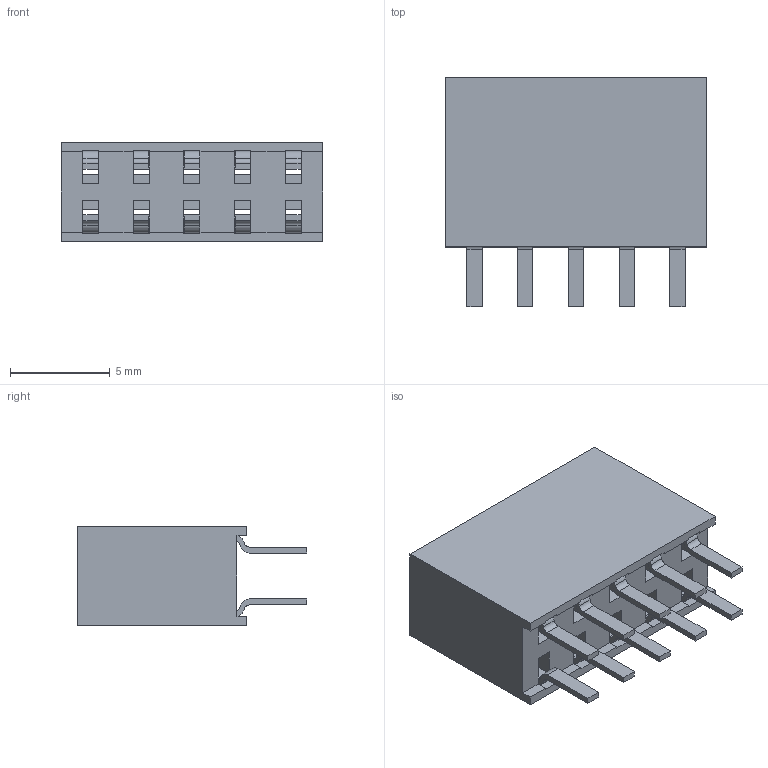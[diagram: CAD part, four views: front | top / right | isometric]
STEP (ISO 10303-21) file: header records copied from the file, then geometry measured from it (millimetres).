
FILE_DESCRIPTION(/* description */ (''),/* implementation_level */ '2;1');
FILE_NAME(/* name */ 'PM254-2-05-Z-8.5-XX-LPT(L11.5) (2.54双排 排母 直针 防漏锡 塑高8.5-HCTL).stp',/* time_stamp */ '2026-10-24T11:13:42+08:00',/* author */ (''),/* organization */ (''),/* preprocessor_version */ 'ST-DEVELOPER v16',/* originating_system */ 'SIEMENS PLM Software NX 10.0',/* authorisation */ '');
FILE_SCHEMA (('AUTOMOTIVE_DESIGN { 1 0 10303 214 3 1 1 1 }'));
Length unit declared in the file: millimetre
Products named in the file (1): PM254-2-N-Z-8.5-XX-LPT(L11.5) (2.54双排 排母 
直针 防漏锡 塑高8.5-HCTL)
Bounding box: 13.1 x 11.5 x 5 mm (x, y, z)
Volume: 442.7 mm3; surface area: 980.6 mm2
Topology: 11 solids, 11 shells, 260 faces, 704 edges, 456 vertices
Faces by surface type: plane 220, cylinder 40
Entity records: 8142 total; most frequent: CARTESIAN_POINT 1421, ORIENTED_EDGE 1408, DIRECTION 1306, EDGE_CURVE 704, LINE 624, VECTOR 624, VERTEX_POINT 456, AXIS2_PLACEMENT_3D 341
